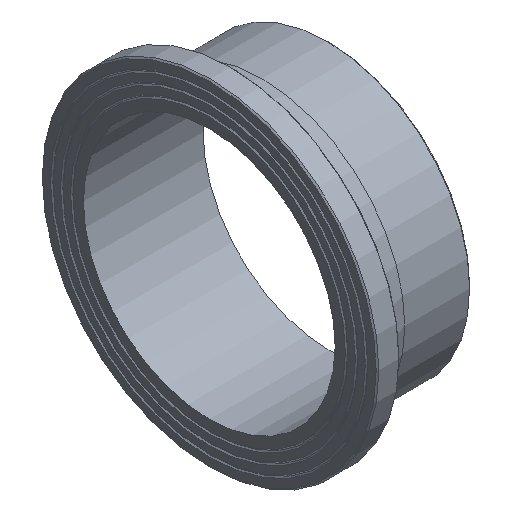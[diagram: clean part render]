
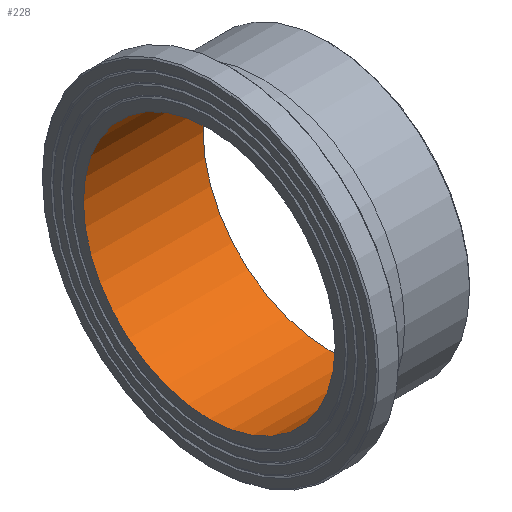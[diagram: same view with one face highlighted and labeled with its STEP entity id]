
A CAD part, isometric view. The second image highlights one B-rep face of the part: STEP entity #228.
In plain terms, the highlighted cylindrical face has radius 138.8 mm (diameter 277.6 mm), a full revolution.
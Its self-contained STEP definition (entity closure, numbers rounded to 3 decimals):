
#33=CYLINDRICAL_SURFACE('',#274,138.8);
#50=ORIENTED_EDGE('',*,*,#79,.F.);
#51=ORIENTED_EDGE('',*,*,#76,.T.);
#76=EDGE_CURVE('',#96,#96,#116,.T.);
#79=EDGE_CURVE('',#99,#99,#119,.T.);
#96=VERTEX_POINT('',#383);
#99=VERTEX_POINT('',#390);
#116=CIRCLE('',#257,138.8);
#119=CIRCLE('',#261,138.8);
#150=EDGE_LOOP('',(#50));
#151=EDGE_LOOP('',(#51));
#190=FACE_BOUND('',#150,.T.);
#191=FACE_BOUND('',#151,.T.);
#228=ADVANCED_FACE('',(#190,#191),#33,.F.);
#257=AXIS2_PLACEMENT_3D('',#382,#303,#304);
#261=AXIS2_PLACEMENT_3D('',#389,#311,#312);
#274=AXIS2_PLACEMENT_3D('',#410,#337,#338);
#303=DIRECTION('',(-1.,0.,0.));
#304=DIRECTION('',(0.,0.,1.));
#311=DIRECTION('',(-1.,0.,0.));
#312=DIRECTION('',(0.,0.,1.));
#337=DIRECTION('',(-1.,0.,0.));
#338=DIRECTION('',(0.,0.,1.));
#382=CARTESIAN_POINT('',(0.,0.,0.));
#383=CARTESIAN_POINT('',(0.,0.,138.8));
#389=CARTESIAN_POINT('',(132.,0.,0.));
#390=CARTESIAN_POINT('',(132.,0.,138.8));
#410=CARTESIAN_POINT('',(60.,0.,0.));
